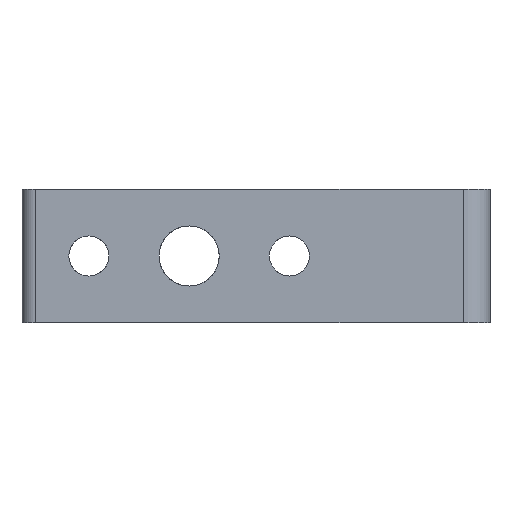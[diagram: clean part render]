
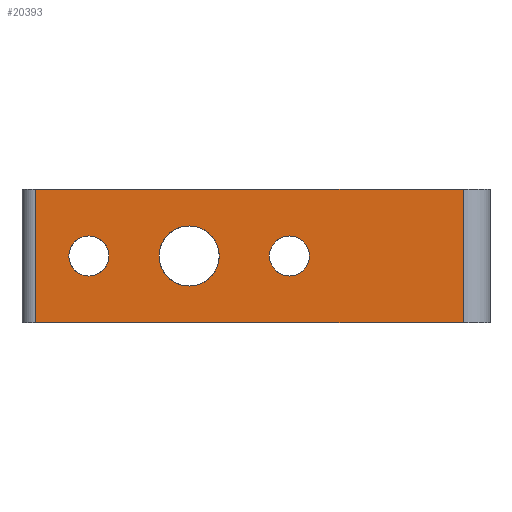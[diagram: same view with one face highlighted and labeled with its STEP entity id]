
A CAD part, left-side view. The second image highlights one B-rep face of the part: STEP entity #20393.
In plain terms, the highlighted planar face has unit normal (-1, 0, 0).
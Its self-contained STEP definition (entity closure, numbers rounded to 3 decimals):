
#361 = CIRCLE ( 'NONE', #4161, 4.5 ) ;
#653 = VERTEX_POINT ( 'NONE', #9594 ) ;
#4161 = AXIS2_PLACEMENT_3D ( 'NONE', #27421, #10855, #30185 ) ;
#4562 = VECTOR ( 'NONE', #33773, 1000. ) ;
#4787 = EDGE_CURVE ( 'NONE', #29930, #22042, #20902, .T. ) ;
#5527 = EDGE_CURVE ( 'NONE', #24860, #653, #11764, .T. ) ;
#5814 = CARTESIAN_POINT ( 'NONE',  ( 0., 45., -4.5 ) ) ;
#6057 = AXIS2_PLACEMENT_3D ( 'NONE', #16192, #35556, #18984 ) ;
#6450 = CIRCLE ( 'NONE', #18108, 3. ) ;
#6519 = AXIS2_PLACEMENT_3D ( 'NONE', #10209, #15732, #35083 ) ;
#6668 = CARTESIAN_POINT ( 'NONE',  ( 0., 4., -10. ) ) ;
#6780 = CARTESIAN_POINT ( 'NONE',  ( 0., 60., 0. ) ) ;
#6909 = ORIENTED_EDGE ( 'NONE', *, *, #33849, .F. ) ;
#7172 = DIRECTION ( 'NONE',  ( -1., 0., 0. ) ) ;
#7640 = VERTEX_POINT ( 'NONE', #20247 ) ;
#7935 = EDGE_CURVE ( 'NONE', #7640, #26144, #34026, .T. ) ;
#7983 = CARTESIAN_POINT ( 'NONE',  ( 0., 4., 10. ) ) ;
#8027 = CARTESIAN_POINT ( 'NONE',  ( 0., 68., 10. ) ) ;
#8184 = ORIENTED_EDGE ( 'NONE', *, *, #4787, .F. ) ;
#8274 = AXIS2_PLACEMENT_3D ( 'NONE', #14031, #33373, #16812 ) ;
#8424 = CARTESIAN_POINT ( 'NONE',  ( 0., 68., 10. ) ) ;
#9254 = CARTESIAN_POINT ( 'NONE',  ( 0., 60., 0. ) ) ;
#9594 = CARTESIAN_POINT ( 'NONE',  ( 0., 30., -3. ) ) ;
#9618 = DIRECTION ( 'NONE',  ( 0., 0., 1. ) ) ;
#10209 = CARTESIAN_POINT ( 'NONE',  ( 0., 70., 10. ) ) ;
#10265 = VERTEX_POINT ( 'NONE', #24018 ) ;
#10541 = EDGE_CURVE ( 'NONE', #21981, #31997, #6450, .T. ) ;
#10855 = DIRECTION ( 'NONE',  ( -1., 0., 0. ) ) ;
#11764 = CIRCLE ( 'NONE', #8274, 3. ) ;
#12053 = DIRECTION ( 'NONE',  ( 0., 0., 1. ) ) ;
#12412 = CARTESIAN_POINT ( 'NONE',  ( 0., 30., 3. ) ) ;
#12565 = CARTESIAN_POINT ( 'NONE',  ( 0., 60., 3. ) ) ;
#12921 = FACE_BOUND ( 'NONE', #21647, .T. ) ;
#13118 = CARTESIAN_POINT ( 'NONE',  ( 0., 70., 10. ) ) ;
#13545 = DIRECTION ( 'NONE',  ( 0., 0., 1. ) ) ;
#13666 = VECTOR ( 'NONE', #13545, 1000. ) ;
#14031 = CARTESIAN_POINT ( 'NONE',  ( 0., 30., 0. ) ) ;
#15624 = PLANE ( 'NONE',  #6519 ) ;
#15732 = DIRECTION ( 'NONE',  ( 1., 0., 0. ) ) ;
#16192 = CARTESIAN_POINT ( 'NONE',  ( 0., 30., 0. ) ) ;
#16812 = DIRECTION ( 'NONE',  ( 0., 0., 1. ) ) ;
#17008 = AXIS2_PLACEMENT_3D ( 'NONE', #9254, #28616, #12053 ) ;
#17207 = CARTESIAN_POINT ( 'NONE',  ( 0., 70., -10. ) ) ;
#18108 = AXIS2_PLACEMENT_3D ( 'NONE', #6780, #26169, #9618 ) ;
#18163 = EDGE_CURVE ( 'NONE', #26144, #22042, #28370, .T. ) ;
#18827 = CIRCLE ( 'NONE', #17008, 3. ) ;
#18984 = DIRECTION ( 'NONE',  ( 0., 0., 1. ) ) ;
#18990 = CARTESIAN_POINT ( 'NONE',  ( 0., 60., -3. ) ) ;
#19780 = EDGE_CURVE ( 'NONE', #10265, #25942, #361, .T. ) ;
#20247 = CARTESIAN_POINT ( 'NONE',  ( 0., 68., -10. ) ) ;
#20255 = FACE_BOUND ( 'NONE', #30598, .T. ) ;
#20393 = ADVANCED_FACE ( 'NONE', ( #20255, #28508, #34969, #12921 ), #15624, .F. ) ;
#20902 = LINE ( 'NONE', #13118, #35604 ) ;
#21473 = EDGE_LOOP ( 'NONE', ( #30566, #23213 ) ) ;
#21647 = EDGE_LOOP ( 'NONE', ( #26011, #34742 ) ) ;
#21913 = LINE ( 'NONE', #8424, #28403 ) ;
#21981 = VERTEX_POINT ( 'NONE', #18990 ) ;
#22042 = VERTEX_POINT ( 'NONE', #7983 ) ;
#22525 = EDGE_LOOP ( 'NONE', ( #8184, #23559, #34737, #29014 ) ) ;
#23213 = ORIENTED_EDGE ( 'NONE', *, *, #33021, .F. ) ;
#23559 = ORIENTED_EDGE ( 'NONE', *, *, #33630, .T. ) ;
#23764 = CARTESIAN_POINT ( 'NONE',  ( 0., 45., 0. ) ) ;
#24018 = CARTESIAN_POINT ( 'NONE',  ( 0., 45., 4.5 ) ) ;
#24860 = VERTEX_POINT ( 'NONE', #12412 ) ;
#25942 = VERTEX_POINT ( 'NONE', #5814 ) ;
#26011 = ORIENTED_EDGE ( 'NONE', *, *, #19780, .F. ) ;
#26110 = EDGE_CURVE ( 'NONE', #25942, #10265, #31461, .T. ) ;
#26144 = VERTEX_POINT ( 'NONE', #6668 ) ;
#26169 = DIRECTION ( 'NONE',  ( -1., 0., 0. ) ) ;
#26550 = DIRECTION ( 'NONE',  ( 0., 0., 1. ) ) ;
#27421 = CARTESIAN_POINT ( 'NONE',  ( 0., 45., 0. ) ) ;
#28370 = LINE ( 'NONE', #35628, #13666 ) ;
#28403 = VECTOR ( 'NONE', #30557, 1000. ) ;
#28470 = CIRCLE ( 'NONE', #6057, 3. ) ;
#28508 = FACE_OUTER_BOUND ( 'NONE', #22525, .T. ) ;
#28616 = DIRECTION ( 'NONE',  ( -1., 0., 0. ) ) ;
#29014 = ORIENTED_EDGE ( 'NONE', *, *, #18163, .T. ) ;
#29930 = VERTEX_POINT ( 'NONE', #8027 ) ;
#30185 = DIRECTION ( 'NONE',  ( 0., 0., 1. ) ) ;
#30557 = DIRECTION ( 'NONE',  ( 0., 0., -1. ) ) ;
#30566 = ORIENTED_EDGE ( 'NONE', *, *, #5527, .F. ) ;
#30598 = EDGE_LOOP ( 'NONE', ( #6909, #35534 ) ) ;
#31461 = CIRCLE ( 'NONE', #34860, 4.5 ) ;
#31997 = VERTEX_POINT ( 'NONE', #12565 ) ;
#32472 = DIRECTION ( 'NONE',  ( 0., -1., 0. ) ) ;
#33021 = EDGE_CURVE ( 'NONE', #653, #24860, #28470, .T. ) ;
#33373 = DIRECTION ( 'NONE',  ( -1., 0., 0. ) ) ;
#33630 = EDGE_CURVE ( 'NONE', #29930, #7640, #21913, .T. ) ;
#33773 = DIRECTION ( 'NONE',  ( 0., -1., 0. ) ) ;
#33849 = EDGE_CURVE ( 'NONE', #31997, #21981, #18827, .T. ) ;
#34026 = LINE ( 'NONE', #17207, #4562 ) ;
#34737 = ORIENTED_EDGE ( 'NONE', *, *, #7935, .T. ) ;
#34742 = ORIENTED_EDGE ( 'NONE', *, *, #26110, .F. ) ;
#34860 = AXIS2_PLACEMENT_3D ( 'NONE', #23764, #7172, #26550 ) ;
#34969 = FACE_BOUND ( 'NONE', #21473, .T. ) ;
#35083 = DIRECTION ( 'NONE',  ( 0., 0., -1. ) ) ;
#35534 = ORIENTED_EDGE ( 'NONE', *, *, #10541, .F. ) ;
#35556 = DIRECTION ( 'NONE',  ( -1., 0., 0. ) ) ;
#35604 = VECTOR ( 'NONE', #32472, 1000. ) ;
#35628 = CARTESIAN_POINT ( 'NONE',  ( 0., 4., 10. ) ) ;
